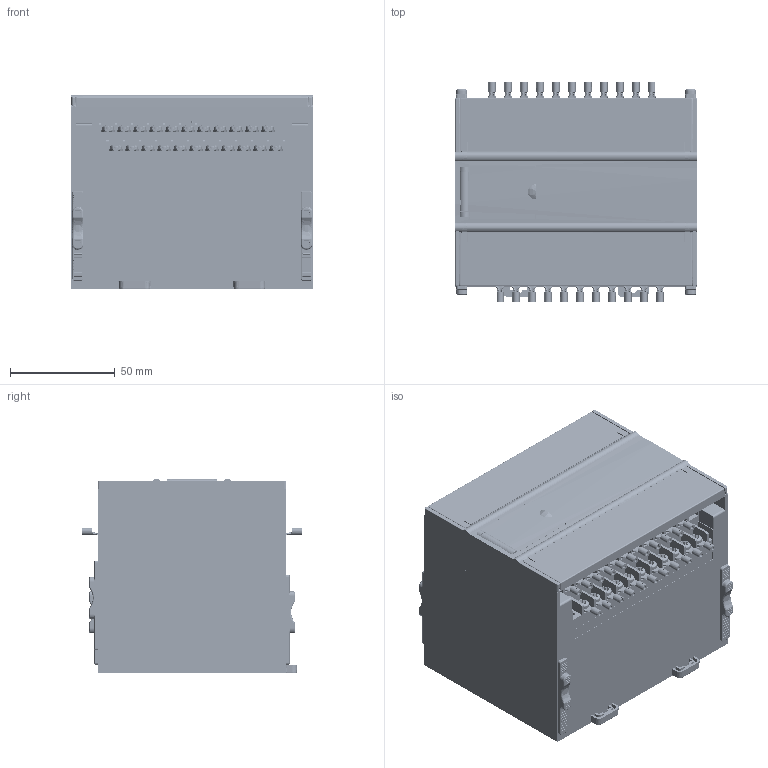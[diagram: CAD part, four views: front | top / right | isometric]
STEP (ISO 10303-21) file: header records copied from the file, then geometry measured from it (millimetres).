
FILE_DESCRIPTION((''),'2;1');
FILE_NAME('0-VC1-1614MAT_ASM','2022-11-11T',('v3615'),(''),'CREO PARAMETRIC BY PTC INC, 2016260','CREO PARAMETRIC BY PTC INC, 2016260','');
FILE_SCHEMA(('AUTOMOTIVE_DESIGN { 1 0 10303 214 1 1 1 1 }'));
Products named in the file (80): PLC_SKEL0001; VC1-1614MAT-P001; VC1-1614MAT-P001_ASM; VC1-1614MAT-P002; VC1-1614MAT-P003; VC1-1614MAT-P004; VC1-1614MAT-P005; VC1-1614MAT-P006; VC1-1614MAT-P007; VC1-1614MAT-P008; VC1-1614MAT-P009; VC1-1614MAT-P010; VC1-1614MAT-P_ASM; PRT0002_AF0; SOP4-100-173A; CAPC2-80-200-440; SD1812; F2-200B; LR4-280-320; SOT23; SR0603; SOP8-50-157; SD2215; SC0805; TO220-3L-9; SOP8-50-155; DO2-170-110-48; LC2-197A; SR1206; CAP2-400-13X5; HEAD0207-TA; TO220-3T-B; CAPC2-400-1000-1000-F; CAP2-400-10X8; SC0603; SR0805; CAP2-400-7X7; CAPC2-200-400-500; SC1206; T12-200-1200C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
Assembly tree (417 placements, depth 6):
  0-VC1-1614MAT_ASM
    PLC_SKEL0001
    VC1-1614MAT-P_ASM
      VC1-1614MAT-P001_ASM
        VC1-1614MAT-P001
      VC1-1614MAT-P002
      VC1-1614MAT-P003
      VC1-1614MAT-P004  x2
      VC1-1614MAT-P005  x2
      VC1-1614MAT-P006  x2
      VC1-1614MAT-P007
      VC1-1614MAT-P008
      VC1-1614MAT-P009
      VC1-1614MAT-P010  x4
    VC1-1614MAT-D_ASM
      XXX1-ARAC1_AF0_ASM
        PRT0002_AF0
        SOP4-100-173A  x2
        CAPC2-80-200-440
        SD1812  x2
        F2-200B
        LR4-280-320  x2
        SOT23  x4
        SR0603  x7
        SOP8-50-157
        SD2215
        SC0805  x14
        TO220-3L-9
        SOP8-50-155
        DO2-170-110-48  x2
        LC2-197A
        SR1206  x8
        CAP2-400-13X5  x2
        HEAD0207-TA
        TO220-3T-B
        CAPC2-400-1000-1000-F
        CAP2-400-10X8
        SC0603  x8
        SR0805  x24
        CAP2-400-7X7
        CAPC2-200-400-500  x2
        SC1206  x2
        T12-200-1200C
        CAPC2-200-400-800
        CAP2-400-13X4
        TB762
        VC1AC30POW
        1420050941-VC1AC30POW-A1_1-0712
      XXX1-1614MARI1_V01_AF0_ASM
        XXX1-1614MARI1_V01_AF1
        SR0603  x76
        SOP4-100-173  x14
        SR0805  x28
        SR2010  x4
        SOP5-50-173  x2
        SC0603  x43
        SOT23  x4
        SOP14-26-170  x3
        SOP16-50-157  x4
        SOT-353
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Bounding box: 115.4 x 104.6 x 92.9 mm (x, y, z)
Surface area: 409208 mm2
Topology: 452 solids, 458 shells, 13398 faces, 33317 edges, 21267 vertices
Faces by surface type: plane 8109, cylinder 3154, torus 942, bspline 634, cone 415, sphere 129, extrusion 15
Entity records: 314296 total; most frequent: CARTESIAN_POINT 59739, ORIENTED_EDGE 37408, DIRECTION 36430, EDGE_CURVE 18714, PRESENTATION_STYLE_ASSIGNMENT 16027, STYLED_ITEM 15445, CURVE_STYLE 15236, VECTOR 12836
